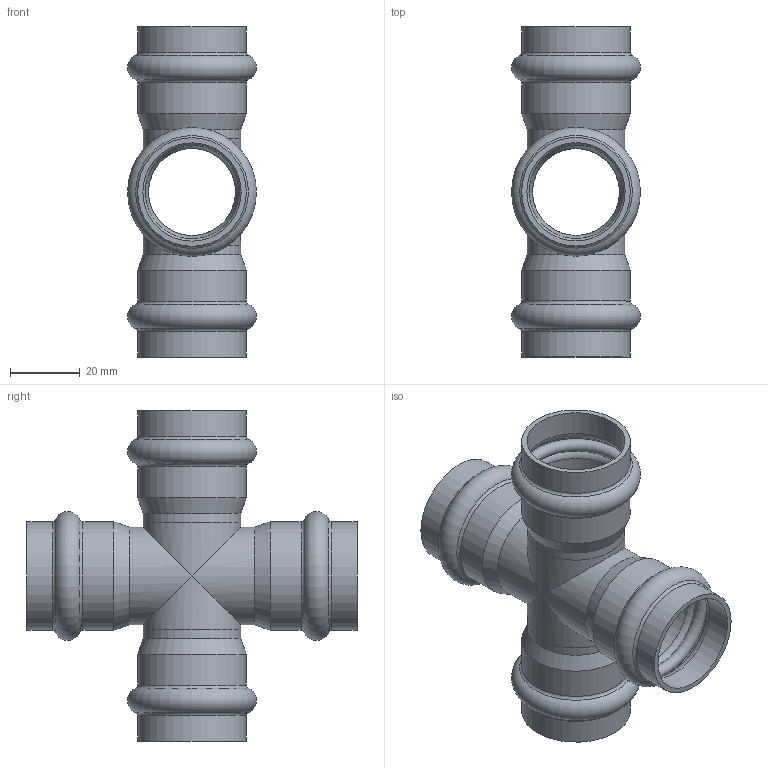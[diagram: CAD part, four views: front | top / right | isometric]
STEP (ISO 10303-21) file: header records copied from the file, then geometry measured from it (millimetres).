
FILE_DESCRIPTION(('STEP AP203'), '1');
FILE_NAME('ÂÐ.302669.012.000 ÑÁ - VTi.941.I.002828 Êðåñò. Äó28', '2024-02-29T12:44:16', ('User'), ('Vesta'), 'C3D Converter', 'C3D Toolkit', '');
FILE_SCHEMA(('CONFIG_CONTROL_DESIGN'));
Length unit declared in the file: millimetre
Products named in the file (4): ВР.302669.012.000 СБ; ВР.735542.008; ВР.735542.004
Assembly tree (7 placements, depth 2):
  ВР.302669.012.000 СБ
    ВР.735542.008
    ВР.735542.004  x2
    (unnamed)  x4
Bounding box: 37.09 x 95 x 95 mm (x, y, z)
Volume: 26721.1 mm3; surface area: 36376.1 mm2
Topology: 7 solids, 7 shells, 72 faces, 146 edges, 78 vertices
Faces by surface type: cylinder 28, torus 28, plane 8, cone 8
Full cylindrical faces by diameter (mm): 25.04 x6, 28 x6, 28.3 x8, 31.26 x8
Entity records: 1885 total; most frequent: CARTESIAN_POINT 223, DIRECTION 218, ORIENTED_EDGE 124, AXIS2_PLACEMENT_3D 109, EDGE_LOOP 104, FACE_OUTER_BOUND 84, EDGE_CURVE 62, VERTEX_POINT 58
